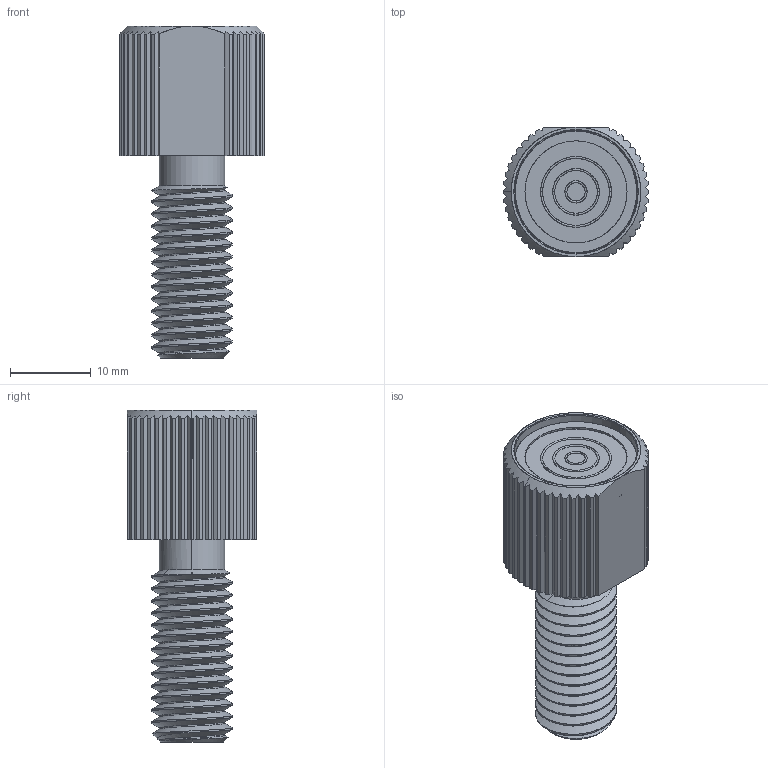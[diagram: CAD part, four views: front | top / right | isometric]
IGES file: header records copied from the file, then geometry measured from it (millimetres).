
Start section: SolidWorks IGES file using analytic representation for surfaces
Global section: file name: C:\Users\Brian\Dropbox\BR-Engineering\PROJECTS\BAR100\MODELS\RELEASES\PUBLIC\BAR100-ASM-R1.IGS; native system: SolidWorks 2016; preprocessor: SolidWorks 2016; author: Brian; date: 170825.132036; units: millimetre
Bounding box: 18 x 16 x 41 mm (x, y, z)
Surface area: 5064 mm2 (no closed solid volume)
Topology: 0 solids, 0 shells, 281 faces, 4335 edges, 4335 vertices
Faces by surface type: revolution 157, bspline 124
